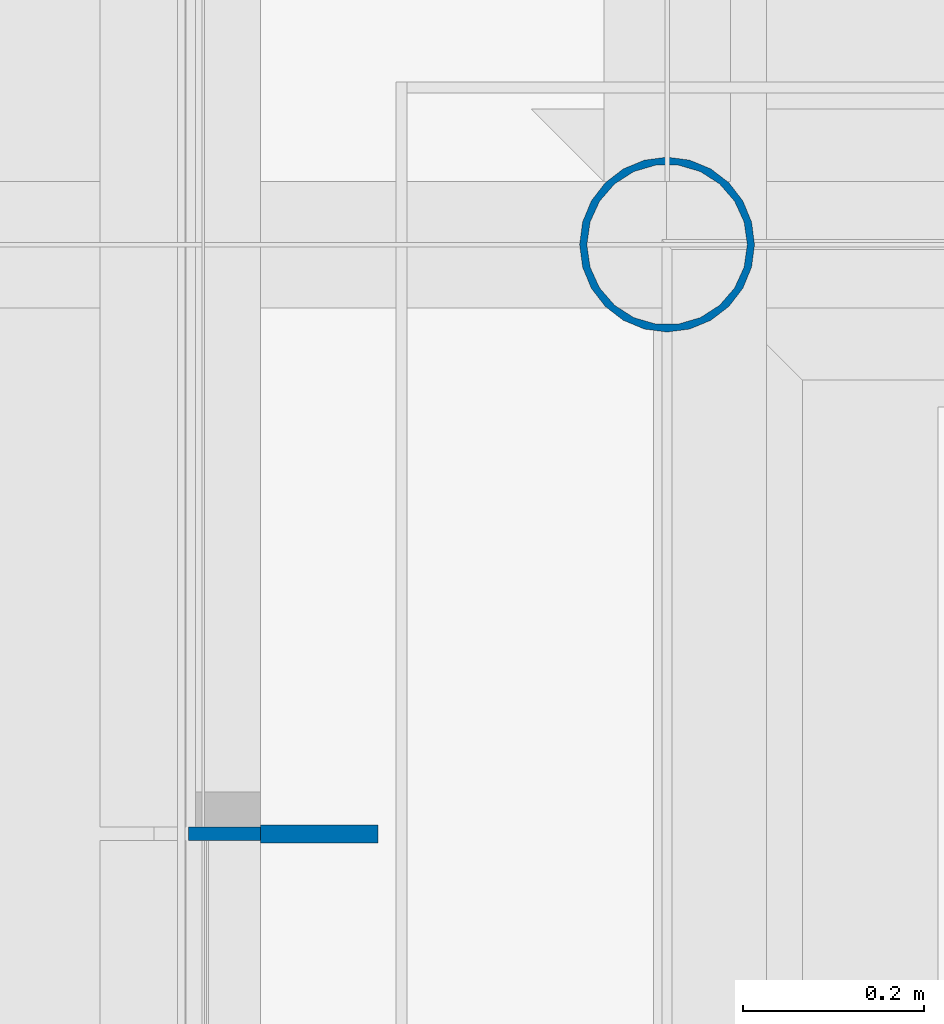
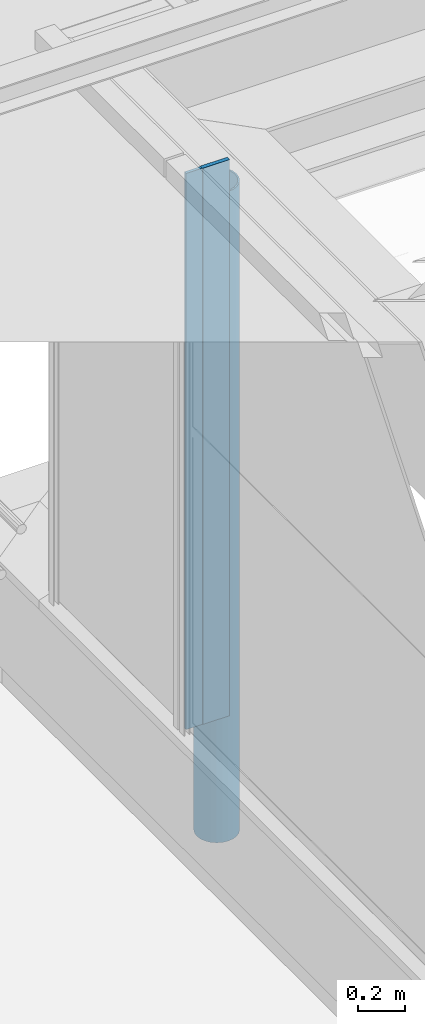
# One storey, part 6 of 260: 3 columns.
"""IFC2X3 building model written with IfcOpenShell, lengths in millimetres."""

from ifc_helpers import new_model, entity, si_unit, converted_unit, derived_unit, money_unit, direction, frame, origin_with_axes, place, context, subcontext, project, spatial, faceted_brep, material, type_object, element, save


model = new_model("IFC2X3")

# Units and contexts
model_context = context("Model", 3, precision=0.01, world=origin_with_axes(), true_north=direction((0.0, 1.0)))
plan_context = context("Plan", 3, precision=0.01, world=origin_with_axes(), true_north=direction((0.0, 1.0)))
body_context = subcontext(model_context, "Body", "Model", "MODEL_VIEW")
ifc_project = project(units=[si_unit("LENGTHUNIT", "METRE", prefix="MILLI"), si_unit("AREAUNIT", "SQUARE_METRE"), si_unit("VOLUMEUNIT", "CUBIC_METRE"), converted_unit("PLANEANGLEUNIT", "DEGREE", entity("IfcPlaneAngleMeasure", 0.0174532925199), si_unit("PLANEANGLEUNIT", "RADIAN"), dimensions=[0, 0, 0, 0, 0, 0, 0]), money_unit("EUR"), converted_unit("TIMEUNIT", "Year", entity("IfcTimeMeasure", 31556926.0), si_unit("TIMEUNIT", "SECOND"), dimensions=[0, 0, 1, 0, 0, 0, 0]), si_unit("MASSUNIT", "GRAM", prefix="KILO"), si_unit("THERMODYNAMICTEMPERATUREUNIT", "DEGREE_CELSIUS"), si_unit("LUMINOUSINTENSITYUNIT", "LUMEN"), si_unit("ENERGYUNIT", "JOULE", prefix="MEGA"), derived_unit("THERMALCONDUCTANCEUNIT", [(si_unit("POWERUNIT", "WATT"), 1), (si_unit("LENGTHUNIT", "METRE"), -1), (si_unit("THERMODYNAMICTEMPERATUREUNIT", "KELVIN"), -1)]), derived_unit("SPECIFICHEATCAPACITYUNIT", [(si_unit("ENERGYUNIT", "JOULE"), 1), (si_unit("MASSUNIT", "GRAM", prefix="KILO"), -1), (si_unit("THERMODYNAMICTEMPERATUREUNIT", "KELVIN"), -1)]), derived_unit("MASSDENSITYUNIT", [(si_unit("MASSUNIT", "GRAM", prefix="KILO"), 1), (si_unit("VOLUMEUNIT", "CUBIC_METRE"), -1)])], contexts=[model_context, plan_context])

# Site, building, storey
site_placement = place(None, origin_with_axes())
site = spatial("IfcSite", under=ifc_project, at=site_placement, Name="Site", CompositionType="ELEMENT")
building_placement = place(site_placement, origin_with_axes())
building = spatial("IfcBuilding", under=site, at=building_placement, Name="Naam gebouw", CompositionType="ELEMENT")
storey_placement = place(building_placement, frame((0.0, 0.0, 3960.0), z_axis=(0.0, 0.0, 1.0), x_axis=(1.0, 0.0, 0.0)))
storey = spatial("IfcBuildingStorey", under=building, at=storey_placement, Name="verdieping", CompositionType="ELEMENT", Elevation=3960.0)

# Columns
ifc_material_1 = material(Name="Metaal - Staal C wit")
column_type_1 = type_object("IfcColumnType", Name="Metaal - Staal C wit 20 x 130", PredefinedType="COLUMN")
column_1_placement = place(storey_placement, frame((18120.0000757, 17427.5000434, 1020.0), z_axis=(0.0, 0.0, 1.0), x_axis=(0.0, -1.0, 0.0)))
element("IfcColumn", 1, at=column_1_placement, inside=storey, type_object=column_type_1, material=ifc_material_1, Name="28_kolom koker", ObjectType="COLUMN", context=body_context, shape_type="Brep", body=[
    faceted_brep([(-10.0, -65.0, 2860.0), (-10.0, -65.0, 0.0), (10.0, -65.0, 0.0), (10.0, -65.0, 2860.0), (-10.0, 65.0, 2860.0), (-10.0, 65.0, 0.0), (10.0, 65.0, 0.0), (10.0, 65.0, 2860.0)], [[[0, 1, 2, 3]], [[4, 5, 1, 0]], [[2, 1, 5, 6]], [[3, 2, 6, 7]], [[4, 0, 3, 7]], [[7, 6, 5, 4]]]),
])
ifc_material_2 = material(Name="Metaal - Aluminium beige")
column_type_2 = type_object("IfcColumnType", Name="Metaal - Aluminium beige 15 x 80", PredefinedType="COLUMN")
column_2_placement = place(storey_placement, frame((18015.0, 17427.5000434, 1020.0), z_axis=(0.0, 0.0, 1.0), x_axis=(0.0, -1.0, 0.0)))
element("IfcColumn", 2, at=column_2_placement, inside=storey, type_object=column_type_2, material=ifc_material_2, Name="28_kolom koker", ObjectType="COLUMN", context=body_context, shape_type="Brep", body=[
    faceted_brep([(-7.5, -40.0, 2860.0), (-7.5, -40.0, 0.0), (7.5, -40.0, 0.0), (7.5, -40.0, 2860.0), (-7.5, 40.0, 2860.0), (-7.5, 40.0, 0.0), (7.5, 40.0, 0.0), (7.5, 40.0, 2860.0)], [[[0, 1, 2, 3]], [[4, 5, 1, 0]], [[2, 1, 5, 6]], [[3, 2, 6, 7]], [[4, 0, 3, 7]], [[7, 6, 5, 4]]]),
])
column_type_3 = type_object("IfcColumnType", Name="Lucht D194", PredefinedType="COLUMN")
column_3_placement = place(storey_placement, frame((18505.0, 18080.0, -79.999999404), z_axis=(0.0, 0.0, 1.0), x_axis=(1.0, 0.0, 0.0)))
element("IfcColumn", 3, at=column_3_placement, inside=storey, type_object=column_type_3, material=ifc_material_1, Name="28_kolom ø 193,7mm", ObjectType="COLUMN", context=body_context, shape_type="Brep", body=[
    faceted_brep([(-96.85, 0.0, 0.0), (-93.5499162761, -25.0666245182, 0.0), (-93.5499162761, -25.0666245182, 3339.9999994), (-96.85, 0.0, 3339.9999994), (-93.5499162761, 25.0666245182, 0.0), (-83.8745603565, 48.425, 0.0), (-68.4832917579, 68.4832917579, 0.0), (-48.425, 83.8745603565, 0.0), (-25.0666245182, 93.5499162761, 0.0), (0.0, 96.85, 0.0), (25.0666245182, 93.5499162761, 0.0), (48.425, 83.8745603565, 0.0), (68.4832917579, 68.4832917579, 0.0), (83.8745603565, 48.425, 0.0), (93.5499162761, 25.0666245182, 0.0), (96.85, 0.0, 0.0), (93.5499162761, -25.0666245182, 0.0), (83.8745603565, -48.425, 0.0), (68.4832917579, -68.4832917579, 0.0), (48.425, -83.8745603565, 0.0), (25.0666245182, -93.5499162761, 0.0), (0.0, -96.85, 0.0), (-25.0666245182, -93.5499162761, 0.0), (-48.425, -83.8745603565, 0.0), (-68.4832917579, -68.4832917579, 0.0), (-83.8745603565, -48.425, 0.0), (-88.85, 0.0, 0.0), (-85.2509507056, -25.0319376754, 0.0), (-74.7453763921, -48.0359366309, 0.0), (-58.184376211, -67.1483496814, 0.0), (-36.9096239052, -80.8208027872, 0.0), (-12.6446733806, -87.9456351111, 0.0), (12.6446733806, -87.9456351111, 0.0), (36.9096239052, -80.8208027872, 0.0), (58.184376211, -67.1483496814, 0.0), (74.7453763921, -48.0359366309, 0.0), (85.2509507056, -25.0319376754, 0.0), (88.85, 0.0, 0.0), (85.2509507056, 25.0319376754, 0.0), (74.7453763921, 48.0359366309, 0.0), (58.184376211, 67.1483496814, 0.0), (36.9096239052, 80.8208027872, 0.0), (12.6446733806, 87.9456351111, 0.0), (-12.6446733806, 87.9456351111, 0.0), (-36.9096239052, 80.8208027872, 0.0), (-58.184376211, 67.1483496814, 0.0), (-74.7453763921, 48.0359366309, 0.0), (-85.2509507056, 25.0319376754, 0.0), (-83.8745603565, -48.425, 3339.9999994), (-68.4832917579, -68.4832917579, 3339.9999994), (-48.425, -83.8745603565, 3339.9999994), (-25.0666245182, -93.5499162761, 3339.9999994), (0.0, -96.85, 3339.9999994), (25.0666245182, -93.5499162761, 3339.9999994), (48.425, -83.8745603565, 3339.9999994), (68.4832917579, -68.4832917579, 3339.9999994), (83.8745603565, -48.425, 3339.9999994), (93.5499162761, -25.0666245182, 3339.9999994), (96.85, 0.0, 3339.9999994), (93.5499162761, 25.0666245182, 3339.9999994), (83.8745603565, 48.425, 3339.9999994), (68.4832917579, 68.4832917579, 3339.9999994), (48.425, 83.8745603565, 3339.9999994), (25.0666245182, 93.5499162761, 3339.9999994), (0.0, 96.85, 3339.9999994), (-25.0666245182, 93.5499162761, 3339.9999994), (-48.425, 83.8745603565, 3339.9999994), (-68.4832917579, 68.4832917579, 3339.9999994), (-83.8745603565, 48.425, 3339.9999994), (-93.5499162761, 25.0666245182, 3339.9999994), (-88.85, 0.0, 3339.9999994), (-85.2509507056, 25.0319376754, 3339.9999994), (-74.7453763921, 48.0359366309, 3339.9999994), (-58.184376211, 67.1483496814, 3339.9999994), (-36.9096239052, 80.8208027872, 3339.9999994), (-12.6446733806, 87.9456351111, 3339.9999994), (12.6446733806, 87.9456351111, 3339.9999994), (36.9096239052, 80.8208027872, 3339.9999994), (58.184376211, 67.1483496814, 3339.9999994), (74.7453763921, 48.0359366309, 3339.9999994), (85.2509507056, 25.0319376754, 3339.9999994), (88.85, 0.0, 3339.9999994), (85.2509507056, -25.0319376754, 3339.9999994), (74.7453763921, -48.0359366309, 3339.9999994), (58.184376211, -67.1483496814, 3339.9999994), (36.9096239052, -80.8208027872, 3339.9999994), (12.6446733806, -87.9456351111, 3339.9999994), (-12.6446733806, -87.9456351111, 3339.9999994), (-36.9096239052, -80.8208027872, 3339.9999994), (-58.184376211, -67.1483496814, 3339.9999994), (-74.7453763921, -48.0359366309, 3339.9999994), (-85.2509507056, -25.0319376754, 3339.9999994)], [[[0, 1, 2, 3]], [[0, 4, 5, 6, 7, 8, 9, 10, 11, 12, 13, 14, 15, 16, 17, 18, 19, 20, 21, 22, 23, 24, 25, 1], [26, 27, 28, 29, 30, 31, 32, 33, 34, 35, 36, 37, 38, 39, 40, 41, 42, 43, 44, 45, 46, 47]], [[1, 25, 48, 2]], [[3, 2, 48, 49, 50, 51, 52, 53, 54, 55, 56, 57, 58, 59, 60, 61, 62, 63, 64, 65, 66, 67, 68, 69], [70, 71, 72, 73, 74, 75, 76, 77, 78, 79, 80, 81, 82, 83, 84, 85, 86, 87, 88, 89, 90, 91]], [[4, 0, 3, 69]], [[5, 4, 69, 68]], [[6, 5, 68, 67]], [[7, 6, 67, 66]], [[8, 7, 66, 65]], [[9, 8, 65, 64]], [[10, 9, 64, 63]], [[11, 10, 63, 62]], [[12, 11, 62, 61]], [[13, 12, 61, 60]], [[14, 13, 60, 59]], [[15, 14, 59, 58]], [[16, 15, 58, 57]], [[17, 16, 57, 56]], [[18, 17, 56, 55]], [[19, 18, 55, 54]], [[20, 19, 54, 53]], [[21, 20, 53, 52]], [[22, 21, 52, 51]], [[23, 22, 51, 50]], [[24, 23, 50, 49]], [[25, 24, 49, 48]], [[27, 26, 70, 91]], [[28, 27, 91, 90]], [[29, 28, 90, 89]], [[30, 29, 89, 88]], [[31, 30, 88, 87]], [[32, 31, 87, 86]], [[33, 32, 86, 85]], [[34, 33, 85, 84]], [[35, 34, 84, 83]], [[36, 35, 83, 82]], [[37, 36, 82, 81]], [[38, 37, 81, 80]], [[39, 38, 80, 79]], [[40, 39, 79, 78]], [[41, 40, 78, 77]], [[42, 41, 77, 76]], [[43, 42, 76, 75]], [[44, 43, 75, 74]], [[45, 44, 74, 73]], [[46, 45, 73, 72]], [[47, 46, 72, 71]], [[26, 47, 71, 70]]]),
])

save(model, "model.ifc")
